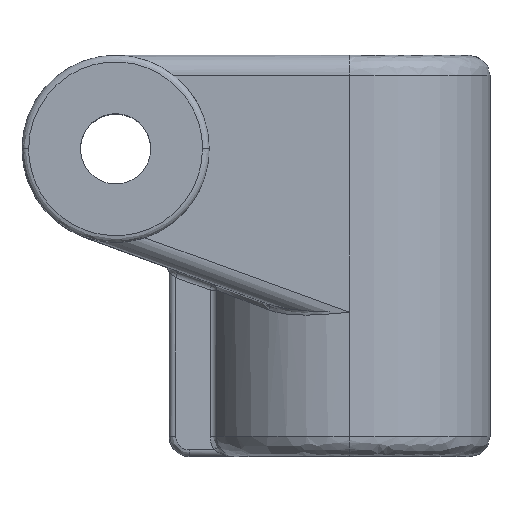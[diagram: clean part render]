
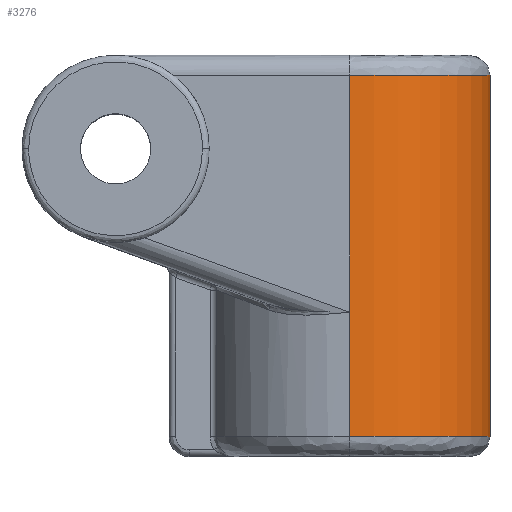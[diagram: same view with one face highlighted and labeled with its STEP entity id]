
A CAD part, top view. The second image highlights one B-rep face of the part: STEP entity #3276.
In plain terms, the highlighted cylindrical face has radius 21 mm (diameter 42 mm), a partial arc.
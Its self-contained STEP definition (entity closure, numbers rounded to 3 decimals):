
#198 = DIRECTION ( 'NONE',  ( 0., -1., 0. ) ) ;
#248 = FACE_OUTER_BOUND ( 'NONE', #2386, .T. ) ;
#388 = AXIS2_PLACEMENT_3D ( 'NONE', #4722, #1346, #1725 ) ;
#397 = CARTESIAN_POINT ( 'NONE',  ( 35., 4.874, 21. ) ) ;
#512 = LINE ( 'NONE', #976, #1758 ) ;
#518 = VERTEX_POINT ( 'NONE', #3074 ) ;
#558 = VECTOR ( 'NONE', #4115, 1000. ) ;
#784 = VERTEX_POINT ( 'NONE', #2035 ) ;
#976 = CARTESIAN_POINT ( 'NONE',  ( 35., 4.874, 21. ) ) ;
#1063 = VECTOR ( 'NONE', #2011, 1000. ) ;
#1119 = DIRECTION ( 'NONE',  ( 0., 0., -1. ) ) ;
#1346 = DIRECTION ( 'NONE',  ( 0., 1., 0. ) ) ;
#1503 = CARTESIAN_POINT ( 'NONE',  ( 35., 4.874, -21. ) ) ;
#1588 = ORIENTED_EDGE ( 'NONE', *, *, #4304, .T. ) ;
#1725 = DIRECTION ( 'NONE',  ( 0., 0., -1. ) ) ;
#1758 = VECTOR ( 'NONE', #198, 1000. ) ;
#1855 = CARTESIAN_POINT ( 'NONE',  ( 35., -43., 21. ) ) ;
#1858 = CYLINDRICAL_SURFACE ( 'NONE', #4507, 21. ) ;
#1936 = LINE ( 'NONE', #1503, #558 ) ;
#2011 = DIRECTION ( 'NONE',  ( 0., -1., 0. ) ) ;
#2035 = CARTESIAN_POINT ( 'NONE',  ( 35., -24.445, -21. ) ) ;
#2160 = LINE ( 'NONE', #4242, #1063 ) ;
#2174 = ORIENTED_EDGE ( 'NONE', *, *, #3979, .T. ) ;
#2225 = CARTESIAN_POINT ( 'NONE',  ( 35., 11., 0. ) ) ;
#2267 = CARTESIAN_POINT ( 'NONE',  ( 35., -43., -21. ) ) ;
#2309 = DIRECTION ( 'NONE',  ( 0., -1., 0. ) ) ;
#2386 = EDGE_LOOP ( 'NONE', ( #1588, #3381, #4762, #3349, #2174, #3483 ) ) ;
#2427 = VERTEX_POINT ( 'NONE', #2267 ) ;
#2662 = EDGE_CURVE ( 'NONE', #3879, #2427, #4567, .T. ) ;
#2710 = DIRECTION ( 'NONE',  ( 0., 0., -1. ) ) ;
#2792 = EDGE_CURVE ( 'NONE', #3378, #3879, #512, .T. ) ;
#3074 = CARTESIAN_POINT ( 'NONE',  ( 35., 11., 21. ) ) ;
#3276 = ADVANCED_FACE ( 'NONE', ( #248 ), #1858, .T. ) ;
#3311 = DIRECTION ( 'NONE',  ( 0., -1., 0. ) ) ;
#3349 = ORIENTED_EDGE ( 'NONE', *, *, #3696, .F. ) ;
#3378 = VERTEX_POINT ( 'NONE', #3980 ) ;
#3381 = ORIENTED_EDGE ( 'NONE', *, *, #2792, .T. ) ;
#3391 = CARTESIAN_POINT ( 'NONE',  ( 35., 4.874, 0. ) ) ;
#3397 = DIRECTION ( 'NONE',  ( 0., -1., 0. ) ) ;
#3483 = ORIENTED_EDGE ( 'NONE', *, *, #3964, .T. ) ;
#3509 = CARTESIAN_POINT ( 'NONE',  ( 35., 11., -21. ) ) ;
#3696 = EDGE_CURVE ( 'NONE', #784, #2427, #2160, .T. ) ;
#3879 = VERTEX_POINT ( 'NONE', #1855 ) ;
#3901 = AXIS2_PLACEMENT_3D ( 'NONE', #2225, #3311, #1119 ) ;
#3964 = EDGE_CURVE ( 'NONE', #4156, #518, #4446, .T. ) ;
#3979 = EDGE_CURVE ( 'NONE', #784, #4156, #1936, .T. ) ;
#3980 = CARTESIAN_POINT ( 'NONE',  ( 35., -24.445, 21. ) ) ;
#4078 = VECTOR ( 'NONE', #3397, 1000. ) ;
#4115 = DIRECTION ( 'NONE',  ( 0., 1., 0. ) ) ;
#4156 = VERTEX_POINT ( 'NONE', #3509 ) ;
#4242 = CARTESIAN_POINT ( 'NONE',  ( 35., 4.874, -21. ) ) ;
#4304 = EDGE_CURVE ( 'NONE', #518, #3378, #4360, .T. ) ;
#4360 = LINE ( 'NONE', #397, #4078 ) ;
#4446 = CIRCLE ( 'NONE', #3901, 21. ) ;
#4507 = AXIS2_PLACEMENT_3D ( 'NONE', #3391, #2309, #2710 ) ;
#4567 = CIRCLE ( 'NONE', #388, 21. ) ;
#4722 = CARTESIAN_POINT ( 'NONE',  ( 35., -43., 0. ) ) ;
#4762 = ORIENTED_EDGE ( 'NONE', *, *, #2662, .T. ) ;
